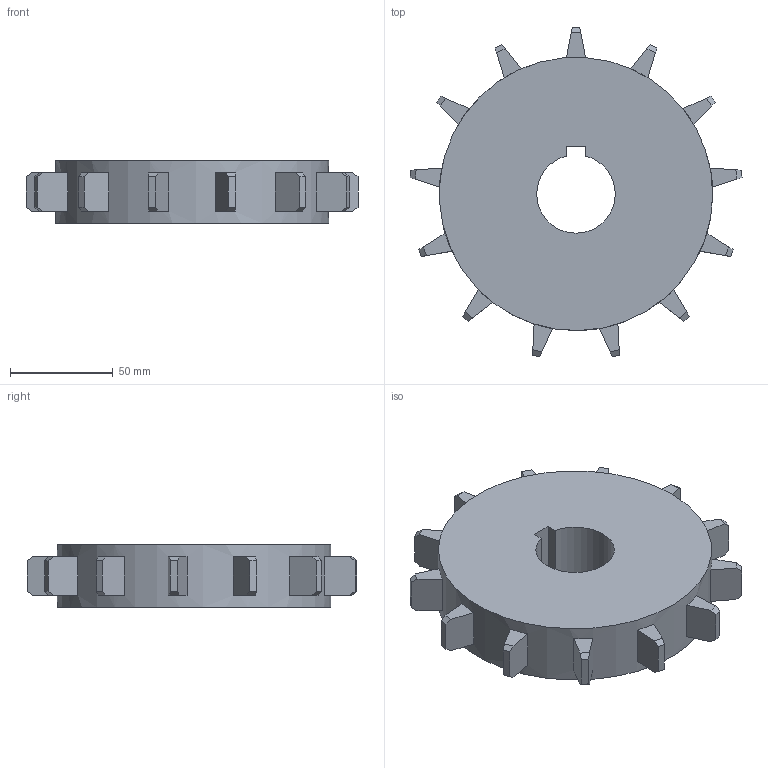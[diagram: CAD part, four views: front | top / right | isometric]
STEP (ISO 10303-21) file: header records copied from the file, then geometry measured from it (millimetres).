
FILE_DESCRIPTION((''),'2;1');
FILE_NAME('S2800_SPROCKET_62_RND','2020-12-03T08:19:19',('rklein'),('INTRALOX'),'CREO PARAMETRIC BY PTC INC, 2019471','CREO PARAMETRIC BY PTC INC, 2019471','');
FILE_SCHEMA(('CONFIG_CONTROL_DESIGN'));
Length unit declared in the file: inch
Products named in the file (1): S2800_SPROCKET_62_RND
Bounding box: 161.18 x 160.01 x 30.48 mm (x, y, z)
Volume: 408245.2 mm3; surface area: 50064.4 mm2
Topology: 1 solids, 1 shells, 99 faces, 252 edges, 168 vertices
Faces by surface type: plane 96, cylinder 3
Entity records: 3002 total; most frequent: CARTESIAN_POINT 519, ORIENTED_EDGE 504, DIRECTION 482, EDGE_CURVE 252, VECTOR 220, LINE 220, VERTEX_POINT 168, AXIS2_PLACEMENT_3D 131
